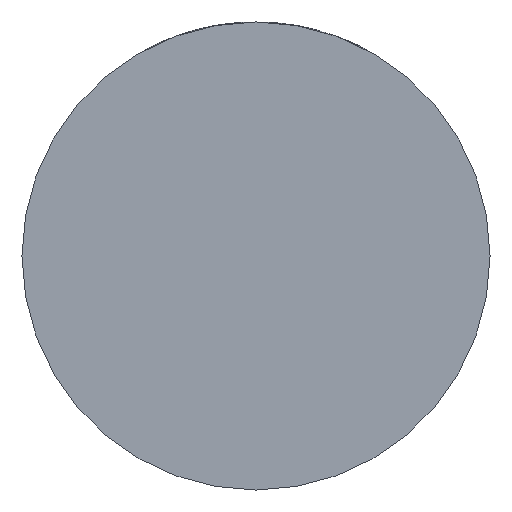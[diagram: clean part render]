
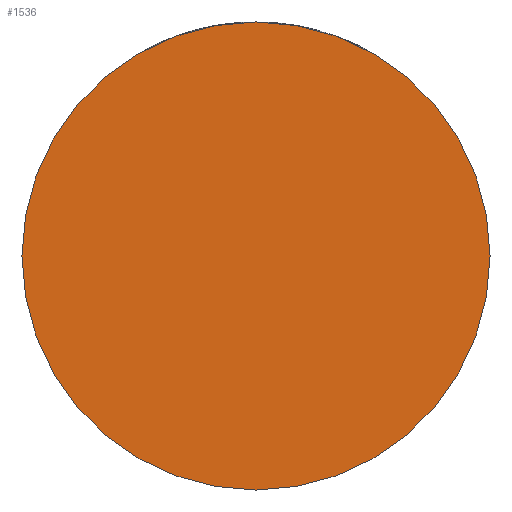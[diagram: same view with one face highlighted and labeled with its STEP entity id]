
A CAD part, front view. The second image highlights one B-rep face of the part: STEP entity #1536.
In plain terms, the highlighted planar face has unit normal (0, -1, 0).
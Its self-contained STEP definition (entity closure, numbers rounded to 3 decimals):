
#305 = CARTESIAN_POINT ( 'NONE',  ( 39., -36., 0. ) ) ;
#513 = EDGE_CURVE ( 'NONE', #1680, #2509, #2713, .T. ) ;
#616 = CARTESIAN_POINT ( 'NONE',  ( -39., -36., 0. ) ) ;
#652 = PLANE ( 'NONE',  #1689 ) ;
#1004 = DIRECTION ( 'NONE',  ( 1., 0., 0. ) ) ;
#1370 = DIRECTION ( 'NONE',  ( 1., 0., 0. ) ) ;
#1536 = ADVANCED_FACE ( 'NONE', ( #3153 ), #652, .T. ) ;
#1680 = VERTEX_POINT ( 'NONE', #305 ) ;
#1689 = AXIS2_PLACEMENT_3D ( 'NONE', #2727, #4479, #1370 ) ;
#1877 = EDGE_CURVE ( 'NONE', #2509, #1680, #3778, .T. ) ;
#2209 = DIRECTION ( 'NONE',  ( 0., -1., 0. ) ) ;
#2355 = DIRECTION ( 'NONE',  ( 0., -1., 0. ) ) ;
#2444 = CARTESIAN_POINT ( 'NONE',  ( 0., -36., 0. ) ) ;
#2509 = VERTEX_POINT ( 'NONE', #616 ) ;
#2554 = CARTESIAN_POINT ( 'NONE',  ( 0., -36., 0. ) ) ;
#2713 = CIRCLE ( 'NONE', #3646, 39. ) ;
#2727 = CARTESIAN_POINT ( 'NONE',  ( 0., -36., 0. ) ) ;
#3153 = FACE_OUTER_BOUND ( 'NONE', #3268, .T. ) ;
#3268 = EDGE_LOOP ( 'NONE', ( #3383, #3733 ) ) ;
#3383 = ORIENTED_EDGE ( 'NONE', *, *, #1877, .T. ) ;
#3596 = DIRECTION ( 'NONE',  ( 1., 0., 0. ) ) ;
#3646 = AXIS2_PLACEMENT_3D ( 'NONE', #2444, #2355, #1004 ) ;
#3733 = ORIENTED_EDGE ( 'NONE', *, *, #513, .T. ) ;
#3778 = CIRCLE ( 'NONE', #4152, 39. ) ;
#4152 = AXIS2_PLACEMENT_3D ( 'NONE', #2554, #2209, #3596 ) ;
#4479 = DIRECTION ( 'NONE',  ( 0., -1., 0. ) ) ;
